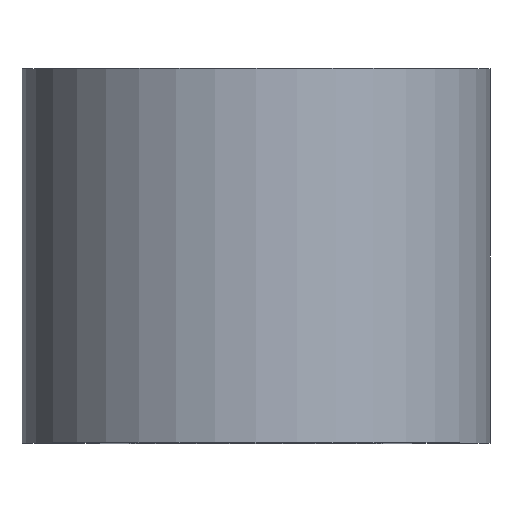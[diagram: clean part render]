
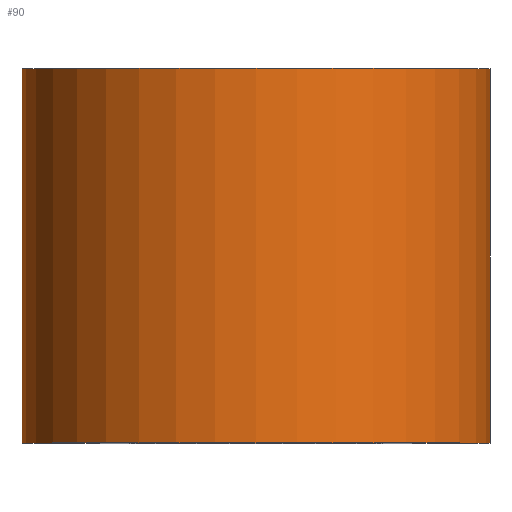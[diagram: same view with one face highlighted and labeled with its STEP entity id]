
A CAD part, top view. The second image highlights one B-rep face of the part: STEP entity #90.
In plain terms, the highlighted cylindrical face has radius 7.5 mm (diameter 15 mm), a partial arc.
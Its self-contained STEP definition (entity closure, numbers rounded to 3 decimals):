
#4 = DIRECTION ( 'NONE',  ( 0., 1., 0. ) ) ;
#5 = DIRECTION ( 'NONE',  ( 0., 1., 0. ) ) ;
#8 = DIRECTION ( 'NONE',  ( 0., 1., 0. ) ) ;
#10 = DIRECTION ( 'NONE',  ( -1., 0., 0. ) ) ;
#18 = FACE_OUTER_BOUND ( 'NONE', #295, .T. ) ;
#24 = LINE ( 'NONE', #193, #86 ) ;
#29 = VERTEX_POINT ( 'NONE', #66 ) ;
#30 = CARTESIAN_POINT ( 'NONE',  ( -7.5, 12., 0. ) ) ;
#35 = CIRCLE ( 'NONE', #237, 7.5 ) ;
#36 = VERTEX_POINT ( 'NONE', #43 ) ;
#37 = AXIS2_PLACEMENT_3D ( 'NONE', #277, #5, #10 ) ;
#43 = CARTESIAN_POINT ( 'NONE',  ( 7.5, 12., 0. ) ) ;
#46 = CARTESIAN_POINT ( 'NONE',  ( -7.5, 0., 0. ) ) ;
#53 = ORIENTED_EDGE ( 'NONE', *, *, #149, .T. ) ;
#58 = VECTOR ( 'NONE', #8, 1000. ) ;
#59 = ORIENTED_EDGE ( 'NONE', *, *, #91, .F. ) ;
#66 = CARTESIAN_POINT ( 'NONE',  ( 7.5, 0., 0. ) ) ;
#77 = CARTESIAN_POINT ( 'NONE',  ( 0., 0., 0. ) ) ;
#86 = VECTOR ( 'NONE', #195, 1000. ) ;
#90 = ADVANCED_FACE ( 'NONE', ( #18 ), #268, .T. ) ;
#91 = EDGE_CURVE ( 'NONE', #290, #36, #228, .T. ) ;
#100 = DIRECTION ( 'NONE',  ( 0., 1., 0. ) ) ;
#110 = EDGE_CURVE ( 'NONE', #117, #29, #35, .T. ) ;
#117 = VERTEX_POINT ( 'NONE', #46 ) ;
#121 = ORIENTED_EDGE ( 'NONE', *, *, #110, .T. ) ;
#123 = CARTESIAN_POINT ( 'NONE',  ( 0., 12., 0. ) ) ;
#149 = EDGE_CURVE ( 'NONE', #29, #36, #24, .T. ) ;
#152 = CARTESIAN_POINT ( 'NONE',  ( -7.5, 0., 0. ) ) ;
#171 = EDGE_CURVE ( 'NONE', #117, #290, #271, .T. ) ;
#191 = DIRECTION ( 'NONE',  ( -1., 0., 0. ) ) ;
#193 = CARTESIAN_POINT ( 'NONE',  ( 7.5, 0., 0. ) ) ;
#195 = DIRECTION ( 'NONE',  ( 0., 1., 0. ) ) ;
#211 = DIRECTION ( 'NONE',  ( -1., 0., 0. ) ) ;
#228 = CIRCLE ( 'NONE', #291, 7.5 ) ;
#237 = AXIS2_PLACEMENT_3D ( 'NONE', #77, #100, #191 ) ;
#249 = ORIENTED_EDGE ( 'NONE', *, *, #171, .F. ) ;
#268 = CYLINDRICAL_SURFACE ( 'NONE', #37, 7.5 ) ;
#271 = LINE ( 'NONE', #152, #58 ) ;
#277 = CARTESIAN_POINT ( 'NONE',  ( 0., 0., 0. ) ) ;
#290 = VERTEX_POINT ( 'NONE', #30 ) ;
#291 = AXIS2_PLACEMENT_3D ( 'NONE', #123, #4, #211 ) ;
#295 = EDGE_LOOP ( 'NONE', ( #121, #53, #59, #249 ) ) ;
